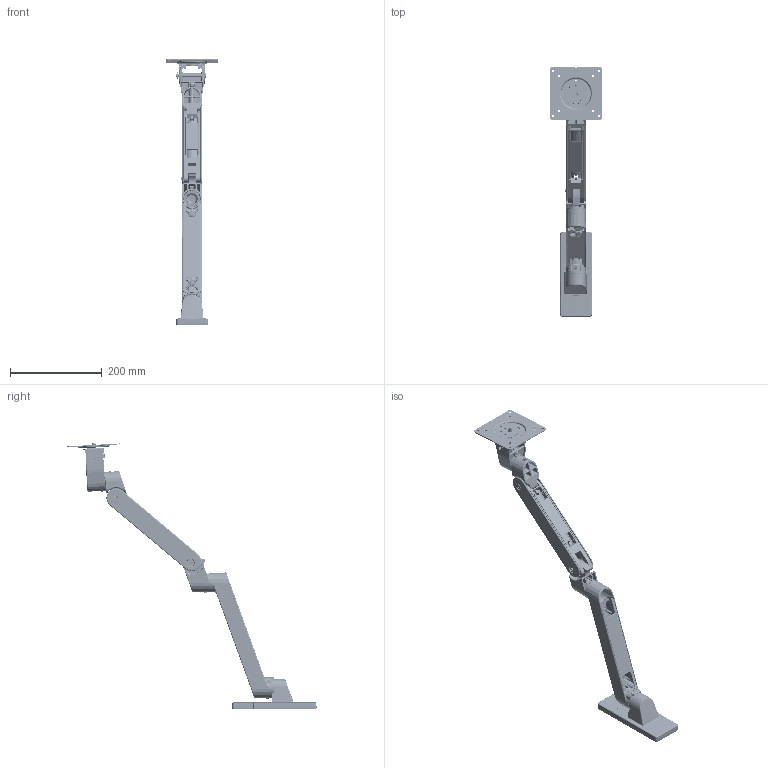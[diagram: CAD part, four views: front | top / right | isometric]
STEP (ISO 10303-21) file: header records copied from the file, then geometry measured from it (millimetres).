
FILE_DESCRIPTION (( 'STEP AP203' ), '1' );
FILE_NAME ('45-683.STEP', '2025-01-15T02:58:27', ( '' ), ( '' ), 'SwSTEP 2.0', 'SolidWorks 2024', '' );
FILE_SCHEMA (( 'CONFIG_CONTROL_DESIGN' ));
Length unit declared in the file: millimetre
Products named in the file (34): 445-642-00; 301-069-508-000_301-069-508-035; 154-512-00_CDR_20250115_Horizontal; 348-657-00; 519-190-00; 701-283-00; 741-680-00; 301-080-002-000_Drawing; 519-180-00; 348-655-00; 850-410-00; 741-710-00; 519-183-00_CDR_20250115; 775-654-00; 755-278-00; 445-640-00; 348-677-00; 301-045-508-000_301-045-508-026; 519-181-00; 348-660-00; 301-080-002-000_301-080-002-006; 519-213-00; 718-505-00; 445-639-00_CDR_20250115; 154-513-00_CDR_20250115; 445-641-00_CDR_20250115_upper travel; 301-007-002-000_301-007-002-008; 519-184-00; 301-045-508-000_301-045-508-040; 507-341-00; 519-199-00; 820-105-00_FLAT LABEL; 45-683; 348-676-00
Assembly tree (41 placements, depth 4):
  45-683
    519-199-00
    445-639-00_CDR_20250115
      445-640-00
      301-080-002-000_301-080-002-006  x2
      850-410-00
      348-657-00
      519-213-00
      755-278-00  x2
    445-641-00_CDR_20250115_upper travel
      519-183-00_CDR_20250115
      445-642-00
      519-184-00
      519-190-00
      775-654-00  x2
      301-045-508-000_301-045-508-026
      741-710-00
      701-283-00  x2
      718-505-00
      850-410-00
      301-080-002-000_301-080-002-006
      348-660-00
      348-655-00
    154-512-00_CDR_20250115_Horizontal
      154-513-00_CDR_20250115
        301-007-002-000_301-007-002-008
        507-341-00
        519-181-00
      301-045-508-000_301-045-508-040
      741-710-00
      519-180-00
      301-069-508-000_301-069-508-035
      741-680-00
      301-080-002-000_Drawing
    348-655-00
    348-676-00
    348-677-00
    820-105-00_FLAT LABEL
Bounding box: 115 x 544.3 x 579.73 mm (x, y, z)
Volume: 781394.5 mm3; surface area: 451536.7 mm2
Topology: 37 solids, 37 shells, 6947 faces, 17087 edges, 10016 vertices
Faces by surface type: bspline 2175, cylinder 2156, plane 1553, cone 476, torus 310, sphere 277
Entity records: 261254 total; most frequent: CARTESIAN_POINT 125945, ORIENTED_EDGE 31456, DIRECTION 23086, EDGE_CURVE 15728, VERTEX_POINT 9377, AXIS2_PLACEMENT_3D 8796, EDGE_LOOP 6727, FACE_OUTER_BOUND 6504
